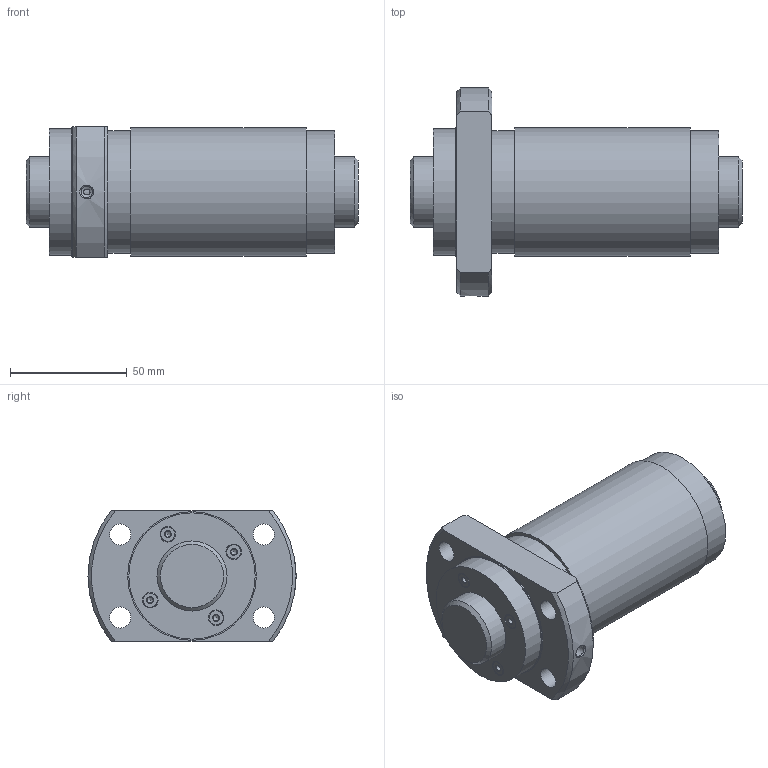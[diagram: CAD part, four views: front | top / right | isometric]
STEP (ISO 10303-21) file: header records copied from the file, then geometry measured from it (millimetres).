
FILE_DESCRIPTION(/* description */ ('STEP AP203'),/* implementation_level */ '2;1');
FILE_NAME(/* name */ 'WGF3060-3G1+142LC3_N0_13_0_0',/* time_stamp */ '2025-01-16T06:26:44+01:00',/* author */ ('License CC BY-ND 4.0'),/* organization */ ('CADENAS'),/* preprocessor_version */ 'ST-DEVELOPER v19.3',/* originating_system */ 'PARTsolutions',/* authorisation */ ' ');
FILE_SCHEMA (('CONFIG_CONTROL_DESIGN'));
Length unit declared in the file: millimetre
Products named in the file (3): WGF3060-3G1+142LC3_N0_13_0_0; N0130WGF3060-30Shaft; NRR0130WGF3060-3Nut
Assembly tree (2 placements, depth 2):
  WGF3060-3G1+142LC3_N0_13_0_0
    N0130WGF3060-30Shaft
    NRR0130WGF3060-3Nut
Bounding box: 142 x 89 x 56 mm (x, y, z)
Volume: 326944.5 mm3; surface area: 59386.3 mm2
Topology: 2 solids, 2 shells, 65 faces, 132 edges, 84 vertices
Faces by surface type: cylinder 26, plane 19, cone 16, torus 4
Full cylindrical faces by diameter (mm): 2.5 x4, 4.917 x1, 6.5 x4, 6.7 x4, 9 x4, 30 x2, 52.25 x2, 54 x1, 55 x2
Entity records: 1583 total; most frequent: DIRECTION 276, CARTESIAN_POINT 276, ORIENTED_EDGE 168, FACE_BOUND 134, AXIS2_PLACEMENT_3D 134, EDGE_LOOP 130, EDGE_CURVE 84, VERTEX_POINT 80
